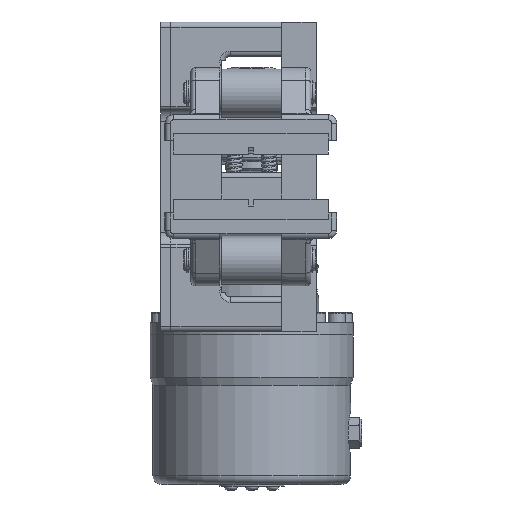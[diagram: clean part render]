
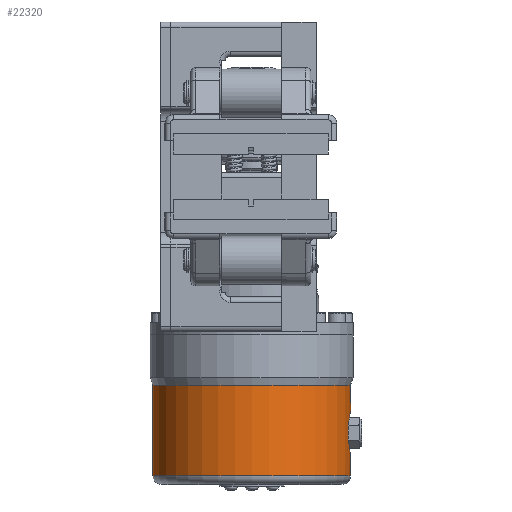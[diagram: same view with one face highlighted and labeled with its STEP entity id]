
A CAD part, front view. The second image highlights one B-rep face of the part: STEP entity #22320.
In plain terms, the highlighted cylindrical face has radius 57.5 mm (diameter 115 mm), a full revolution.
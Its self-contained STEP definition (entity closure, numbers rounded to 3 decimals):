
#649=CYLINDRICAL_SURFACE('',#24564,57.5);
#824=FACE_BOUND('',#6710,.T.);
#2140=LINE('',#42656,#3621);
#3621=VECTOR('',#30322,57.5);
#5406=FACE_OUTER_BOUND('',#6709,.T.);
#6709=EDGE_LOOP('',(#19010,#19011,#19012,#19013,#19014,#19015,#19016));
#6710=EDGE_LOOP('',(#19017,#19018));
#7094=B_SPLINE_CURVE_WITH_KNOTS('',3,(#42660,#42661,#42662,#42663,#42664,
#42665,#42666,#42667,#42668,#42669,#42670,#42671,#42672,#42673,#42674,#42675,
#42676,#42677),.UNSPECIFIED.,.F.,.F.,(4,2,2,2,2,2,2,2,4),(1.89,
2.362,2.835,3.307,3.78,4.252,
4.725,5.197,5.67),.UNSPECIFIED.);
#7095=B_SPLINE_CURVE_WITH_KNOTS('',3,(#42678,#42679,#42680,#42681,#42682,
#42683,#42684,#42685,#42686,#42687,#42688,#42689,#42690,#42691,#42692,#42693,
#42694,#42695,#42696),.UNSPECIFIED.,.F.,.F.,(4,2,2,2,3,2,2,2,4),(5.67,
6.142,6.615,7.087,7.56,8.032,
8.505,8.977,9.45),.UNSPECIFIED.);
#8149=CIRCLE('',#24475,57.5);
#8150=CIRCLE('',#24476,57.5);
#8217=CIRCLE('',#24565,57.5);
#8218=CIRCLE('',#24566,57.5);
#8219=CIRCLE('',#24567,57.5);
#10149=VERTEX_POINT('',#42443);
#10150=VERTEX_POINT('',#42444);
#10219=VERTEX_POINT('',#42651);
#10220=VERTEX_POINT('',#42652);
#10221=VERTEX_POINT('',#42654);
#10222=VERTEX_POINT('',#42658);
#10223=VERTEX_POINT('',#42659);
#13151=EDGE_CURVE('',#10149,#10150,#8149,.T.);
#13152=EDGE_CURVE('',#10150,#10149,#8150,.T.);
#13233=EDGE_CURVE('',#10219,#10220,#8217,.T.);
#13234=EDGE_CURVE('',#10221,#10219,#8218,.T.);
#13235=EDGE_CURVE('',#10221,#10150,#2140,.T.);
#13236=EDGE_CURVE('',#10220,#10221,#8219,.T.);
#13237=EDGE_CURVE('',#10222,#10223,#7094,.T.);
#13238=EDGE_CURVE('',#10223,#10222,#7095,.T.);
#19010=ORIENTED_EDGE('',*,*,#13233,.F.);
#19011=ORIENTED_EDGE('',*,*,#13234,.F.);
#19012=ORIENTED_EDGE('',*,*,#13235,.T.);
#19013=ORIENTED_EDGE('',*,*,#13152,.T.);
#19014=ORIENTED_EDGE('',*,*,#13151,.T.);
#19015=ORIENTED_EDGE('',*,*,#13235,.F.);
#19016=ORIENTED_EDGE('',*,*,#13236,.F.);
#19017=ORIENTED_EDGE('',*,*,#13237,.T.);
#19018=ORIENTED_EDGE('',*,*,#13238,.T.);
#22320=ADVANCED_FACE('',(#5406,#824),#649,.T.);
#24475=AXIS2_PLACEMENT_3D('',#42445,#30126,#30127);
#24476=AXIS2_PLACEMENT_3D('',#42446,#30128,#30129);
#24564=AXIS2_PLACEMENT_3D('',#42650,#30316,#30317);
#24565=AXIS2_PLACEMENT_3D('',#42653,#30318,#30319);
#24566=AXIS2_PLACEMENT_3D('',#42655,#30320,#30321);
#24567=AXIS2_PLACEMENT_3D('',#42657,#30323,#30324);
#30126=DIRECTION('center_axis',(0.,0.,
-1.));
#30127=DIRECTION('ref_axis',(1.,0.,0.));
#30128=DIRECTION('center_axis',(0.,0.,
-1.));
#30129=DIRECTION('ref_axis',(1.,0.,0.));
#30316=DIRECTION('center_axis',(0.,0.,
-1.));
#30317=DIRECTION('ref_axis',(1.,0.,0.));
#30318=DIRECTION('center_axis',(0.,0.,
-1.));
#30319=DIRECTION('ref_axis',(-1.,0.,0.));
#30320=DIRECTION('center_axis',(0.,0.,
-1.));
#30321=DIRECTION('ref_axis',(-1.,0.,0.));
#30322=DIRECTION('',(0.,0.,1.));
#30323=DIRECTION('center_axis',(0.,0.,
-1.));
#30324=DIRECTION('ref_axis',(-1.,0.,0.));
#42443=CARTESIAN_POINT('',(104.5,140.,-121.221));
#42444=CARTESIAN_POINT('',(-10.5,140.,-121.221));
#42445=CARTESIAN_POINT('Origin',(47.,140.,-121.221));
#42446=CARTESIAN_POINT('Origin',(47.,140.,-121.221));
#42650=CARTESIAN_POINT('Origin',(47.,140.,-150.161));
#42651=CARTESIAN_POINT('',(104.5,140.,-174.1));
#42652=CARTESIAN_POINT('',(47.,82.5,-174.1));
#42653=CARTESIAN_POINT('Origin',(47.,140.,-174.1));
#42654=CARTESIAN_POINT('',(-10.5,140.,-174.1));
#42655=CARTESIAN_POINT('Origin',(47.,140.,-174.1));
#42656=CARTESIAN_POINT('',(-10.5,140.,-150.161));
#42657=CARTESIAN_POINT('Origin',(47.,140.,-174.1));
#42658=CARTESIAN_POINT('',(104.5,140.,-136.6));
#42659=CARTESIAN_POINT('',(104.5,140.,-161.6));
#42660=CARTESIAN_POINT('Ctrl Pts',(104.5,140.,-136.6));
#42661=CARTESIAN_POINT('Ctrl Pts',(104.5,141.575,-136.6));
#42662=CARTESIAN_POINT('Ctrl Pts',(104.429,143.251,-136.916));
#42663=CARTESIAN_POINT('Ctrl Pts',(104.171,146.33,-138.193));
#42664=CARTESIAN_POINT('Ctrl Pts',(103.989,147.732,-139.154));
#42665=CARTESIAN_POINT('Ctrl Pts',(103.644,149.946,-141.368));
#42666=CARTESIAN_POINT('Ctrl Pts',(103.46,150.907,-142.77));
#42667=CARTESIAN_POINT('Ctrl Pts',(103.198,152.184,-145.849));
#42668=CARTESIAN_POINT('Ctrl Pts',(103.125,152.5,-147.525));
#42669=CARTESIAN_POINT('Ctrl Pts',(103.125,152.5,-150.675));
#42670=CARTESIAN_POINT('Ctrl Pts',(103.198,152.184,-152.351));
#42671=CARTESIAN_POINT('Ctrl Pts',(103.46,150.907,-155.43));
#42672=CARTESIAN_POINT('Ctrl Pts',(103.644,149.946,-156.832));
#42673=CARTESIAN_POINT('Ctrl Pts',(103.989,147.732,-159.046));
#42674=CARTESIAN_POINT('Ctrl Pts',(104.171,146.33,-160.007));
#42675=CARTESIAN_POINT('Ctrl Pts',(104.429,143.251,-161.284));
#42676=CARTESIAN_POINT('Ctrl Pts',(104.5,141.575,-161.6));
#42677=CARTESIAN_POINT('Ctrl Pts',(104.5,140.,-161.6));
#42678=CARTESIAN_POINT('Ctrl Pts',(104.5,140.,-161.6));
#42679=CARTESIAN_POINT('Ctrl Pts',(104.5,138.425,-161.6));
#42680=CARTESIAN_POINT('Ctrl Pts',(104.429,136.749,-161.284));
#42681=CARTESIAN_POINT('Ctrl Pts',(104.171,133.67,-160.007));
#42682=CARTESIAN_POINT('Ctrl Pts',(103.989,132.268,-159.046));
#42683=CARTESIAN_POINT('Ctrl Pts',(103.644,130.054,-156.832));
#42684=CARTESIAN_POINT('Ctrl Pts',(103.46,129.093,-155.43));
#42685=CARTESIAN_POINT('Ctrl Pts',(103.198,127.816,-152.351));
#42686=CARTESIAN_POINT('Ctrl Pts',(103.125,127.5,-150.675));
#42687=CARTESIAN_POINT('Ctrl Pts',(103.125,127.5,-149.1));
#42688=CARTESIAN_POINT('Ctrl Pts',(103.125,127.5,-147.525));
#42689=CARTESIAN_POINT('Ctrl Pts',(103.198,127.816,-145.849));
#42690=CARTESIAN_POINT('Ctrl Pts',(103.46,129.093,-142.77));
#42691=CARTESIAN_POINT('Ctrl Pts',(103.644,130.054,-141.368));
#42692=CARTESIAN_POINT('Ctrl Pts',(103.989,132.268,-139.154));
#42693=CARTESIAN_POINT('Ctrl Pts',(104.171,133.67,-138.193));
#42694=CARTESIAN_POINT('Ctrl Pts',(104.429,136.749,-136.916));
#42695=CARTESIAN_POINT('Ctrl Pts',(104.5,138.425,-136.6));
#42696=CARTESIAN_POINT('Ctrl Pts',(104.5,140.,-136.6));
